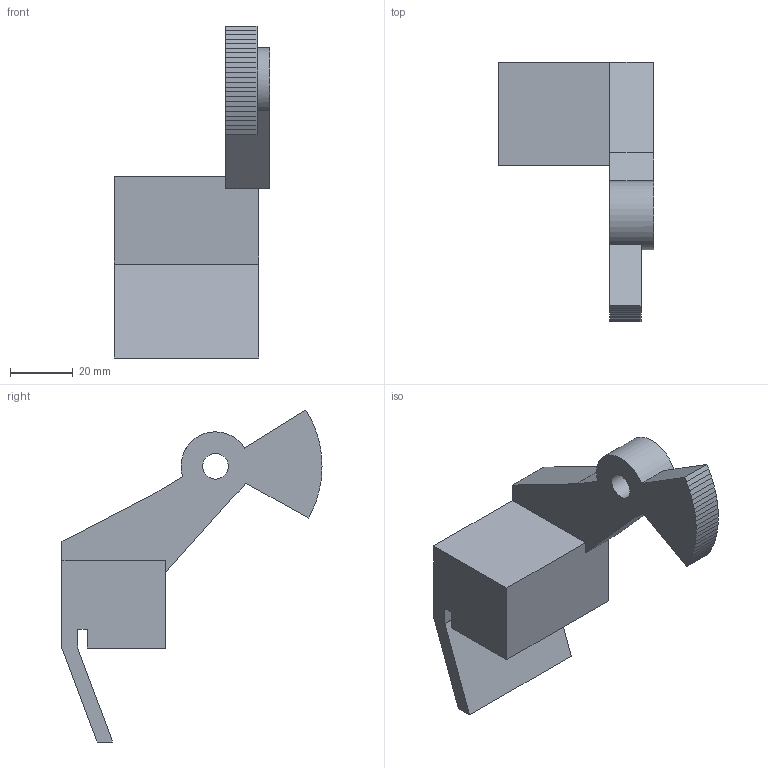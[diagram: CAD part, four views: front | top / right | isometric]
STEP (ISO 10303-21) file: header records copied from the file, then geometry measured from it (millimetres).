
FILE_DESCRIPTION(('Open CASCADE Model'),'2;1');
FILE_NAME('Open CASCADE Shape Model','2026-10-16T03:24:50',('Author'),( 'Open CASCADE'),'Open CASCADE STEP processor 7.9','Open CASCADE 7.9' ,'Unknown');
FILE_SCHEMA(('AUTOMOTIVE_DESIGN { 1 0 10303 214 1 1 1 1 }'));
Length unit declared in the file: millimetre
Products named in the file (1): Open CASCADE STEP translator 7.9 20
Bounding box: 49.5 x 83 x 105.98 mm (x, y, z)
Volume: 54838 mm3; surface area: 20638.6 mm2
Topology: 1 solids, 1 shells, 55 faces, 158 edges, 105 vertices
Faces by surface type: plane 53, cylinder 2
Full cylindrical faces by diameter (mm): 8.2 x1
Entity records: 3844 total; most frequent: CARTESIAN_POINT 647, DIRECTION 590, LINE 462, VECTOR 462, ORIENTED_EDGE 316, PCURVE 316, DEFINITIONAL_REPRESENTATION 316, EDGE_CURVE 158
